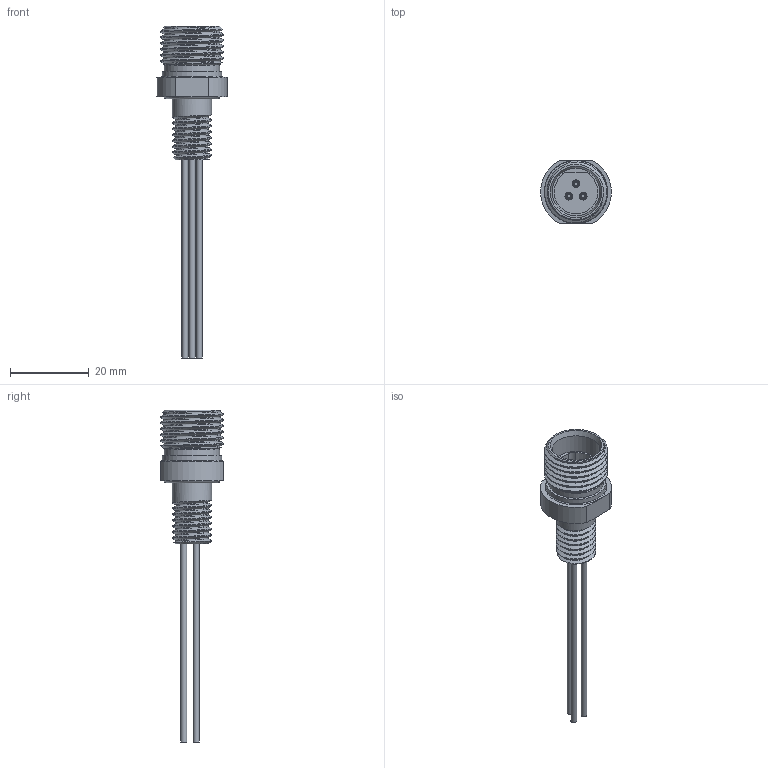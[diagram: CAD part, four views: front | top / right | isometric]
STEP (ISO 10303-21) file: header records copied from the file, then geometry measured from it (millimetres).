
FILE_DESCRIPTION (( 'STEP AP203' ), '1' );
FILE_NAME ('COBALT BULKHEAD 3 PIN PUBLIC.STEP', '2020-01-14T21:07:37', ( '' ), ( '' ), 'SwSTEP 2.0', 'SolidWorks 2020', '' );
FILE_SCHEMA (( 'CONFIG_CONTROL_DESIGN' ));
Length unit declared in the file: millimetre
Products named in the file (1): COBALT BULKHEAD 3 PIN PUBLIC
Bounding box: 17.94 x 16 x 84.25 mm (x, y, z)
Volume: 3321.7 mm3; surface area: 3899.8 mm2
Topology: 2 solids, 2 shells, 67 faces, 146 edges, 94 vertices
Faces by surface type: cylinder 29, plane 20, cone 10, bspline 6, torus 2
Full cylindrical faces by diameter (mm): 1.524 x6, 1.956 x3, 9.95 x7, 10.7 x1, 12.1 x1, 14 x1, 15.1 x1, 15.2 x1
Entity records: 5573 total; most frequent: CARTESIAN_POINT 4408, DIRECTION 225, ORIENTED_EDGE 184, AXIS2_PLACEMENT_3D 105, EDGE_LOOP 97, EDGE_CURVE 92, FACE_OUTER_BOUND 75, VERTEX_POINT 73
